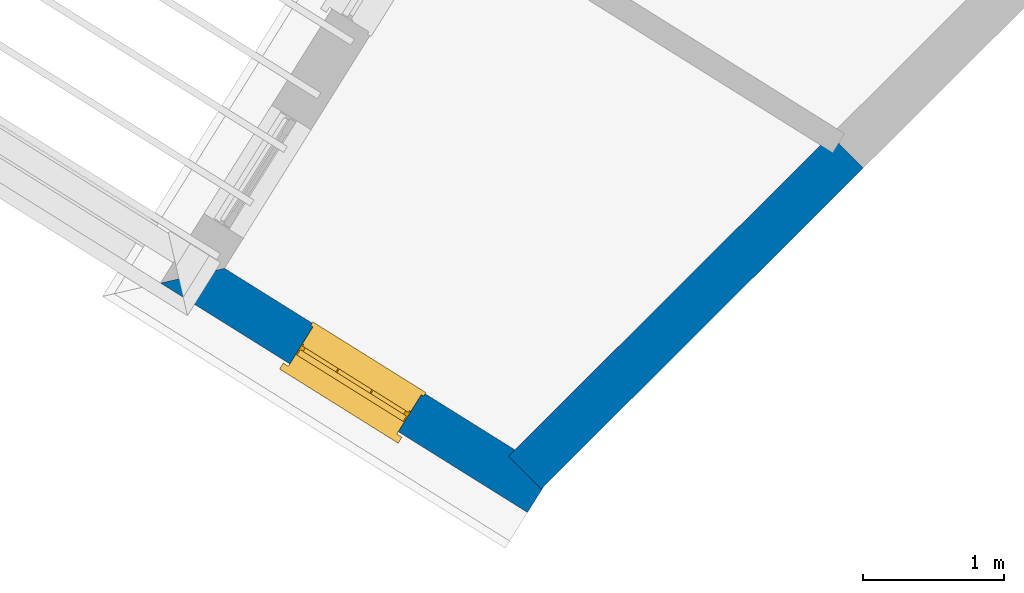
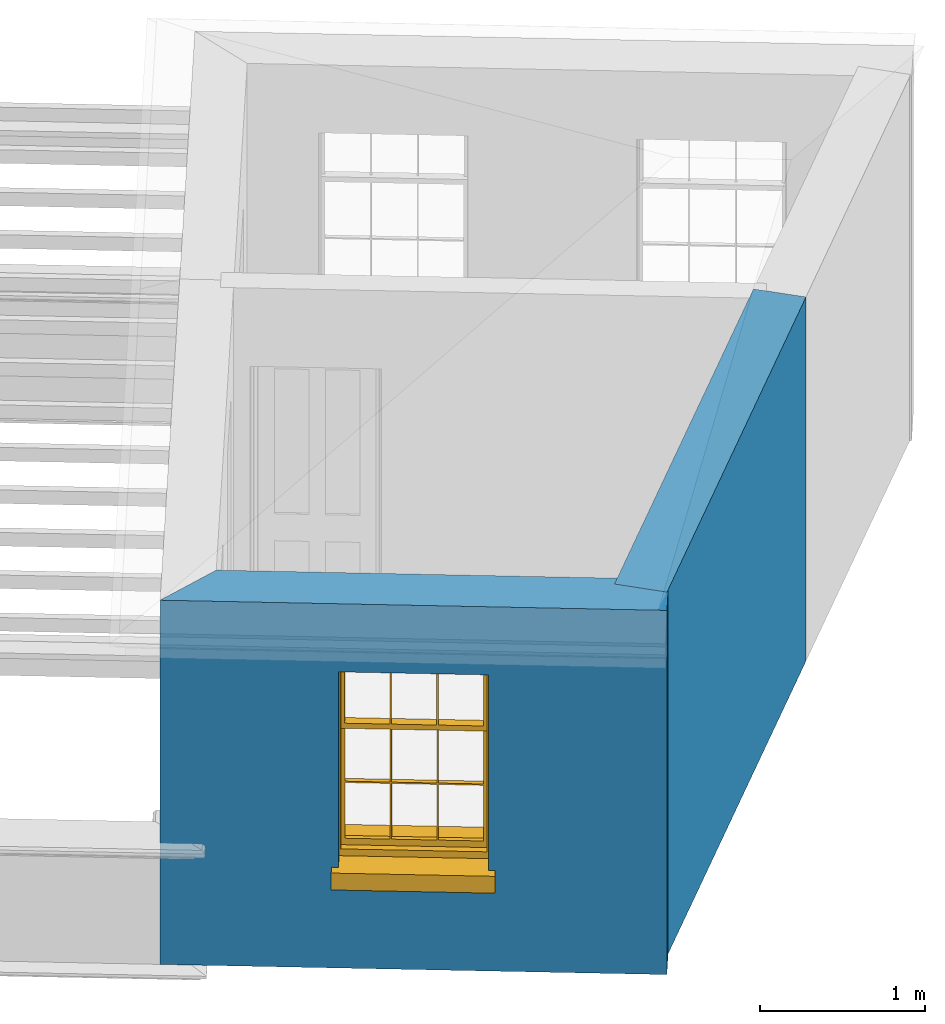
# One storey, part 2 of 6: 2 walls, 1 window, 1 opening.
"""IFC4 building model written with IfcOpenShell, lengths in metres."""

from ifc_helpers import new_model, si_unit, frame, origin, origin_with_axes, place, context, subcontext, project, spatial, polyline, outline, extrude, faceted_brep, source, transform, mapped, material, layer, layer_set, layer_usage, type_object, type_shapes, element, fill, save


model = new_model("IFC4")

# Units and contexts
model_context = context("Model", 3, world=origin_with_axes())
body_context = subcontext(model_context, "Body", "Model", "MODEL_VIEW")
ifc_project = project(units=[si_unit("PLANEANGLEUNIT", "RADIAN"), si_unit("MASSUNIT", "GRAM", prefix="KILO"), si_unit("FORCEUNIT", "NEWTON", prefix="KILO"), si_unit("LENGTHUNIT", "METRE"), si_unit("AREAUNIT", "SQUARE_METRE"), si_unit("VOLUMEUNIT", "CUBIC_METRE")], contexts=[model_context, model_context])

# Sites, building, storey
site_1_placement = place(None, origin_with_axes())
site_1 = spatial("IfcSite", under=ifc_project, at=site_1_placement, Name="Tamar")
site_2_placement = place(site_1_placement, origin_with_axes())
site_2 = spatial("IfcSite", under=site_1, at=site_2_placement, Name="Site plot-4", CompositionType="ELEMENT")
building_placement = place(None, origin_with_axes())
building = spatial("IfcBuilding", under=site_2, at=building_placement, Name="Building plot-4", CompositionType="ELEMENT")
storey_placement = place(None, frame((0.0, 0.0, 31.4), z_axis=(0.0, 0.0, 1.0), x_axis=(1.0, 0.0, 0.0)))
storey = spatial("IfcBuildingStorey", under=building, at=storey_placement, Name="plot-4 2", CompositionType="ELEMENT", Elevation=31.4)

# Wall, opening, window
ifc_material_1 = material(Name="Masonry")
ifc_layer_1 = layer(ifc_material_1, 0.33, ventilated=False)
ifc_layer_set_1 = layer_set([ifc_layer_1], Name="exterior_0.08_0.25")
ifc_layer_usage_1 = layer_usage(ifc_layer_set_1, "AXIS2", "POSITIVE", -0.25)
wall_type_1 = type_object("IfcWallType", Name="exterior_0.08_0.25", PredefinedType="SOLIDWALL", material=ifc_layer_set_1)
wall_1_placement = place(storey_placement, frame((221.96890789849, 278.893603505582, 0.0), z_axis=(0.0, 0.0, 1.0), x_axis=(0.847981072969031, -0.530026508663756, 0.0)))
wall_1 = element("IfcWall", 1, at=wall_1_placement, inside=storey, type_object=wall_type_1, material=ifc_layer_usage_1, Name="exterior", context=body_context, shape_type="SweptSolid", body=[
    extrude(outline(polyline([(0.0799999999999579, 0.0800000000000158), (-0.249999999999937, -0.25), (2.82983238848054, -0.250000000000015), (2.82983238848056, 0.0800000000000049), (0.0799999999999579, 0.0800000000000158)])), origin_with_axes(), (0.0, 0.0, 1.0), 2.7),
])
opening_placement = place(wall_1_placement, frame((0.834916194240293, 0.0, 0.75)))
opening = element("IfcOpeningElement", 2, at=opening_placement, cuts=wall_1, Name="My Opening", ObjectType="Opening", context=body_context, shape_type="SweptSolid", body=[
    extrude(outline(polyline([(0.0, -0.270000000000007), (0.90999999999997, -0.269999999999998), (0.909999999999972, 1.09999999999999), (2.44249065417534e-15, 1.09999999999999), (0.0, -0.270000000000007)])), origin_with_axes(), (0.0, 0.0, 1.0), 1.445),
])
window_type = type_object("IfcWindowType", Name="sash_shorter", PartitioningType="DOUBLE_PANEL_HORIZONTAL", PredefinedType="NOTDEFINED")
shared_shape = source(origin(), body_context, "Body", "Brep", [
    faceted_brep([(0.876875, 0.145, 0.999097), (0.876875, 0.145, 1.411875), (0.9, 0.145, 1.435), (0.033125, 0.145, 1.411875), (0.033125, 0.145, 0.999097), (0.01, 0.145, 1.435), (0.033125, 0.115, 1.411875), (0.01, 0.115, 1.435), (0.033125, 0.115, 0.999097), (0.876875, 0.115, 1.411875), (0.876875, 0.115, 0.999097), (0.9, 0.115, 1.435), (0.033125, 0.145, 0.960972), (0.01, 0.145, 0.960972), (0.033125, 0.145, 0.548195), (0.876875, 0.145, 0.960972), (0.876875, 0.145, 0.548195), (0.9, 0.145, 0.960972), (0.876875, 0.145, 0.538195), (0.876875, 0.145, 0.125417), (0.9, 0.145, 0.077167), (0.033125, 0.145, 0.125417), (0.033125, 0.145, 0.538195), (0.01, 0.145, 0.077167), (0.9, 0.115, 0.960972), (0.01, 0.115, 0.960972), (-0.0425, 0.0, 0.01), (-0.0425, -0.05, 0.001667), (0.0, 0.0, 0.01), (0.9525, 0.0, 0.01), (0.91, 0.0, 0.01), (0.9525, -0.05, 0.001667), (-0.02, 0.33, 0.077167), (0.0, 0.33, 0.077167), (-0.02, 0.36, 0.077167), (0.0, 0.19, 0.077167), (0.01, 0.19, 0.077167), (0.91, 0.19, 0.077167), (0.91, 0.33, 0.077167), (0.9, 0.19, 0.077167), (0.93, 0.33, 0.077167), (0.93, 0.36, 0.077167), (0.01, 0.145, 0.999097), (0.01, 0.175, 0.999097), (0.9, 0.145, 0.999097), (0.9, 0.175, 0.999097), (0.876875, 0.175, 0.125417), (0.876875, 0.175, 0.538195), (0.9, 0.175, 0.077167), (0.876875, 0.175, 0.548195), (0.876875, 0.175, 0.960972), (0.033125, 0.175, 0.125417), (0.01, 0.175, 0.077167), (0.033125, 0.175, 0.538195), (0.033125, 0.175, 0.960972), (0.033125, 0.175, 0.548195), (-0.02, 0.33, 0.052167), (-0.02, 0.36, 0.052167), (0.93, 0.36, 0.052167), (0.93, 0.33, 0.052167), (0.91, 0.33, 0.052167), (0.0, 0.33, 0.052167), (0.91, 0.1, 0.026667), (0.0, 0.1, 0.026667), (-0.0425, -0.05, -0.123333), (0.9525, -0.05, -0.123333), (-0.0425, 0.0, -0.123333), (0.9525, 0.0, -0.123333), (0.01, 0.19, 1.435), (0.9, 0.19, 1.435), (0.0, 0.19, 1.445), (0.91, 0.19, 1.445), (0.01, 0.1, 0.077167), (0.9, 0.1, 0.077167), (0.592292, 0.145, 0.125417), (0.592292, 0.175, 0.125417), (0.317708, 0.175, 0.125417), (0.317708, 0.145, 0.125417), (0.592292, 0.145, 0.548195), (0.317708, 0.145, 0.548195), (0.317708, 0.145, 0.538195), (0.592292, 0.145, 0.538195), (0.592292, 0.175, 0.548195), (0.317708, 0.175, 0.548195), (0.602292, 0.175, 0.548195), (0.602292, 0.145, 0.548195), (0.317708, 0.175, 0.538195), (0.307708, 0.175, 0.125417), (0.307708, 0.175, 0.538195), (0.602292, 0.175, 0.538195), (0.602292, 0.175, 0.125417), (0.592292, 0.175, 0.538195), (0.307708, 0.175, 0.548195), (0.317708, 0.175, 0.960972), (0.307708, 0.175, 0.960972), (0.602292, 0.175, 0.960972), (0.592292, 0.175, 0.960972), (0.307708, 0.145, 0.538195), (0.307708, 0.145, 0.125417), (0.307708, 0.145, 0.548195), (0.307708, 0.145, 0.960972), (0.592292, 0.145, 0.960972), (0.317708, 0.145, 0.960972), (0.602292, 0.145, 0.960972), (0.602292, 0.145, 0.538195), (0.602292, 0.145, 0.125417), (0.317708, 0.115, 1.411875), (0.307708, 0.115, 1.411875), (0.307708, 0.115, 0.999097), (0.317708, 0.115, 0.999097), (0.602292, 0.115, 1.411875), (0.592292, 0.115, 1.411875), (0.592292, 0.115, 0.999097), (0.602292, 0.115, 0.999097), (0.317708, 0.145, 0.999097), (0.307708, 0.145, 0.999097), (0.307708, 0.145, 1.411875), (0.317708, 0.145, 1.411875), (0.602292, 0.145, 0.999097), (0.592292, 0.145, 0.999097), (0.592292, 0.145, 1.411875), (0.602292, 0.145, 1.411875), (0.91, 0.1, 1.445), (0.9, 0.1, 1.435), (0.01, 0.1, 1.435), (0.0, 0.1, 1.445), (0.91, 0.0, 0.0), (0.0, 0.0, 0.0), (0.91, 0.33, 0.0), (0.0, 0.33, 0.0)], [[[0, 1, 2]], [[3, 4, 5]], [[6, 7, 8]], [[9, 10, 11]], [[12, 13, 14]], [[15, 16, 17]], [[18, 19, 20]], [[21, 22, 23]], [[24, 15, 17]], [[13, 12, 25]], [[26, 27, 28]], [[29, 30, 31]], [[32, 33, 34]], [[35, 36, 33]], [[37, 38, 39]], [[40, 41, 38]], [[42, 4, 43]], [[44, 45, 0]], [[46, 47, 48]], [[49, 50, 45]], [[51, 52, 53]], [[54, 55, 43]], [[38, 33, 36, 39]], [[41, 34, 33, 38]], [[56, 32, 34, 57]], [[57, 34, 41, 58]], [[58, 41, 40, 59]], [[57, 58, 60, 61]], [[52, 48, 39, 36]], [[62, 63, 28, 30]], [[27, 31, 30, 28]], [[27, 64, 65, 31]], [[66, 67, 65, 64]], [[2, 5, 68, 69]], [[68, 70, 71, 69]], [[20, 23, 72, 73]], [[73, 72, 63, 62]], [[74, 75, 76, 77]], [[78, 79, 80, 81]], [[78, 82, 83, 79]], [[16, 49, 84, 85]], [[86, 76, 87, 88]], [[89, 90, 75, 91]], [[92, 88, 53, 55]], [[82, 91, 86, 83]], [[93, 83, 92, 94]], [[95, 84, 82, 96]], [[89, 84, 49, 47]], [[97, 88, 87, 98]], [[22, 53, 88, 97]], [[81, 91, 75, 74]], [[80, 86, 91, 81]], [[77, 76, 86, 80]], [[99, 92, 55, 14]], [[100, 94, 92, 99]], [[101, 96, 82, 78]], [[79, 83, 93, 102]], [[85, 84, 95, 103]], [[104, 89, 47, 18]], [[105, 90, 89, 104]], [[104, 18, 16, 85]], [[80, 97, 98, 77]], [[104, 81, 74, 105]], [[103, 101, 78, 85]], [[99, 14, 22, 97]], [[102, 100, 99, 79]], [[106, 107, 108, 109]], [[110, 111, 112, 113]], [[114, 115, 116, 117]], [[118, 119, 120, 121]], [[107, 116, 115, 108]], [[111, 120, 119, 112]], [[109, 114, 117, 106]], [[113, 118, 121, 110]], [[85, 78, 81, 104]], [[84, 89, 91, 82]], [[83, 86, 88, 92]], [[79, 99, 97, 80]], [[109, 112, 119, 114]], [[102, 93, 96, 101]], [[106, 117, 120, 111]], [[98, 87, 51, 21]], [[6, 3, 116, 107]], [[110, 121, 1, 9]], [[19, 46, 90, 105]], [[26, 66, 64, 27]], [[29, 31, 65, 67]], [[25, 24, 112, 109]], [[11, 7, 106, 111]], [[75, 48, 52, 76]], [[43, 45, 96, 93]], [[45, 43, 114, 119]], [[5, 2, 120, 117]], [[24, 25, 102, 101]], [[42, 5, 4]], [[2, 44, 0]], [[49, 45, 48, 47]], [[52, 43, 55, 53]], [[14, 13, 23, 22]], [[20, 17, 16, 18]], [[24, 11, 10]], [[25, 8, 7]], [[8, 4, 3, 6]], [[9, 1, 0, 10]], [[15, 50, 49, 16]], [[18, 47, 46, 19]], [[21, 51, 53, 22]], [[14, 55, 54, 12]], [[44, 2, 69, 45]], [[68, 5, 42, 43]], [[36, 35, 70, 68]], [[39, 69, 71, 37]], [[62, 122, 123, 73]], [[63, 72, 124, 125]], [[8, 108, 115, 4]], [[113, 10, 0, 118]], [[94, 100, 12, 54]], [[17, 20, 73, 24]], [[72, 23, 13, 25]], [[52, 36, 68, 43]], [[69, 39, 48, 45]], [[11, 24, 73, 123]], [[7, 124, 72, 25]], [[23, 77, 98]], [[98, 21, 23]], [[105, 74, 20]], [[20, 19, 105]], [[20, 74, 77, 23]], [[113, 112, 24]], [[24, 10, 113]], [[25, 109, 108]], [[108, 8, 25]], [[110, 9, 11]], [[11, 111, 110]], [[7, 6, 107]], [[107, 106, 7]], [[5, 117, 116]], [[116, 3, 5]], [[121, 120, 2]], [[2, 1, 121]], [[11, 123, 124, 7]], [[122, 125, 124, 123]], [[43, 93, 94]], [[94, 54, 43]], [[96, 45, 95]], [[50, 95, 45]], [[15, 103, 95, 50]], [[48, 75, 90]], [[90, 46, 48]], [[87, 76, 52]], [[52, 51, 87]], [[103, 15, 24]], [[24, 101, 103]], [[100, 102, 25]], [[25, 12, 100]], [[115, 114, 43]], [[43, 4, 115]], [[118, 0, 45]], [[45, 119, 118]], [[71, 70, 125, 122]], [[70, 35, 63, 125]], [[122, 62, 37, 71]], [[126, 67, 66, 127]], [[60, 58, 59]], [[38, 60, 59, 40]], [[61, 56, 57]], [[32, 56, 61, 33]], [[61, 60, 128, 129]], [[62, 60, 38, 37]], [[126, 128, 60, 62]], [[33, 61, 63, 35]], [[61, 129, 127, 63]], [[128, 126, 127, 129]], [[28, 127, 66, 26]], [[63, 127, 28]], [[29, 67, 126, 30]], [[30, 126, 62]]]),
])
type_shapes(window_type, [shared_shape])
window_placement = place(storey_placement, frame((222.533793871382, 278.22212090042, 0.75), z_axis=(0.0, 0.0, 1.0), x_axis=(0.771662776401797, -0.482324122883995, 0.0)))
window = element("IfcWindow", 3, at=window_placement, inside=storey, type_object=window_type, Name="bedroom outside window", OverallHeight=1.445, OverallWidth=0.91, context=body_context, shape_type="MappedRepresentation", body=[
    mapped(shared_shape, transform((0.0, 0.0, 0.0), scale=1.0)),
])
fill(opening, window)

# Wall
ifc_material_2 = material(Name="Masonry")
ifc_layer_2 = layer(ifc_material_2, 0.33, ventilated=False)
ifc_layer_set_2 = layer_set([ifc_layer_2], Name="party_0.08_0.25")
ifc_layer_usage_2 = layer_usage(ifc_layer_set_2, "AXIS2", "POSITIVE", -0.25)
wall_type_2 = type_object("IfcWallType", Name="party_0.08_0.25", PredefinedType="SOLIDWALL", material=ifc_layer_set_2)
wall_2_placement = place(storey_placement, frame((224.156556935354, 277.526223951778, 0.0), z_axis=(0.0, 0.0, 1.0), x_axis=(0.708567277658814, 0.705643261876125, 0.0)))
element("IfcWall", 4, at=wall_2_placement, inside=storey, type_object=wall_type_2, material=ifc_layer_usage_2, Name="party", context=body_context, shape_type="SweptSolid", body=[
    extrude(outline(polyline([(1.32209934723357e-14, 0.0800000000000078), (-1.09491493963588e-15, -0.250000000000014), (3.23643631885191, -0.250000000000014), (3.23643631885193, 0.0800000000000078), (1.32209934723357e-14, 0.0800000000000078)])), origin_with_axes(), (0.0, 0.0, 1.0), 2.7),
])

save(model, "model.ifc")
